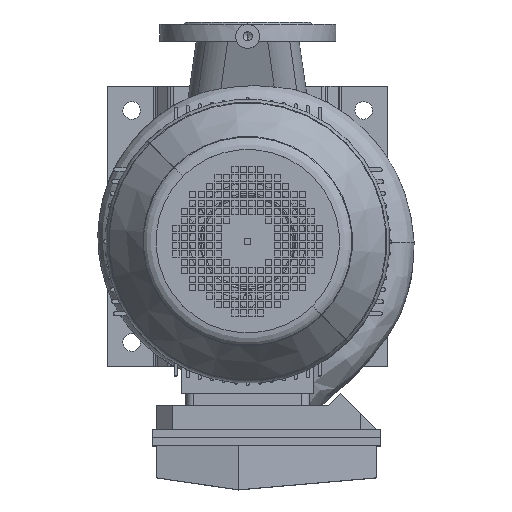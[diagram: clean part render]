
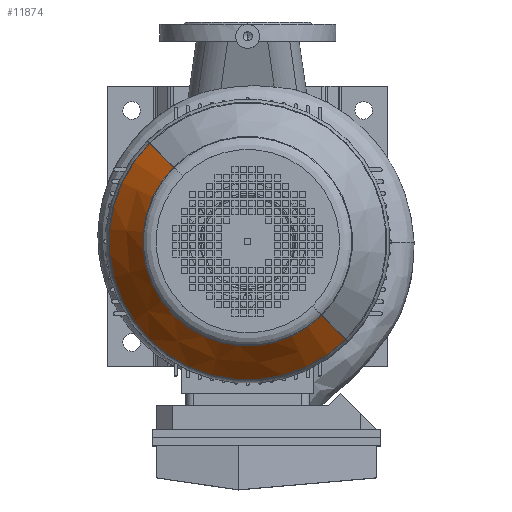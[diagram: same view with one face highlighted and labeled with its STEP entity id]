
A CAD part, top view. The second image highlights one B-rep face of the part: STEP entity #11874.
In plain terms, the highlighted conical face has half-angle 34.992 degrees and reference radius 125 mm.
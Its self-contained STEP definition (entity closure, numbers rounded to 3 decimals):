
#11874=ADVANCED_FACE('',(#26658),#26659,.T.);
#11898=EDGE_CURVE('',#26695,#26694,#26702,.T.);
#11902=EDGE_CURVE('',#26691,#26690,#26708,.T.);
#26658=FACE_OUTER_BOUND('',#49011,.T.);
#26659=CONICAL_SURFACE('',#49012,125.0,0.611);
#26690=VERTEX_POINT('',#49048);
#26691=VERTEX_POINT('',#49049);
#26694=VERTEX_POINT('',#49053);
#26695=VERTEX_POINT('',#49054);
#26702=CIRCLE('',#49063,130.972);
#26708=CIRCLE('',#49071,173.885);
#49011=EDGE_LOOP('',(#84820,#84821,#84822,#84823));
#49012=AXIS2_PLACEMENT_3D('',#84824,#84825,#84826);
#49048=CARTESIAN_POINT('',(173.885,0.,130.165));
#49049=CARTESIAN_POINT('',(-173.885,0.,130.165));
#49053=CARTESIAN_POINT('',(-130.972,0.,191.469));
#49054=CARTESIAN_POINT('',(130.972,0.,191.469));
#49063=AXIS2_PLACEMENT_3D('',#84880,#84881,#84882);
#49071=AXIS2_PLACEMENT_3D('',#84886,#84887,#84888);
#84820=ORIENTED_EDGE('',*,*,#92225,.T.);
#84821=ORIENTED_EDGE('',*,*,#11898,.F.);
#84822=ORIENTED_EDGE('',*,*,#92226,.T.);
#84823=ORIENTED_EDGE('',*,*,#11902,.F.);
#84824=CARTESIAN_POINT('',(0.0,0.0,200.0));
#84825=DIRECTION('',(-0.0,-0.0,-1.0));
#84826=DIRECTION('',(-1.0,0.0,0.0));
#84880=CARTESIAN_POINT('',(0.0,0.0,191.469));
#84881=DIRECTION('',(0.0,-0.0,1.0));
#84882=DIRECTION('',(1.0,0.,0.0));
#84886=CARTESIAN_POINT('',(0.0,0.0,130.165));
#84887=DIRECTION('',(0.0,0.0,-1.0));
#84888=DIRECTION('',(1.0,0.,0.0));
#92225=EDGE_CURVE('',#26691,#26694,#99902,.T.);
#92226=EDGE_CURVE('',#26695,#26690,#99903,.T.);
#99902=LINE('',#113527,#113528);
#99903=LINE('',#113529,#113530);
#113527=CARTESIAN_POINT('',(-125.0,0.,200.0));
#113528=VECTOR('',#120325,1.0);
#113529=CARTESIAN_POINT('',(125.0,0.,200.0));
#113530=VECTOR('',#120326,1.0);
#120325=DIRECTION('',(0.573,0.,0.819));
#120326=DIRECTION('',(0.573,0.,-0.819));
